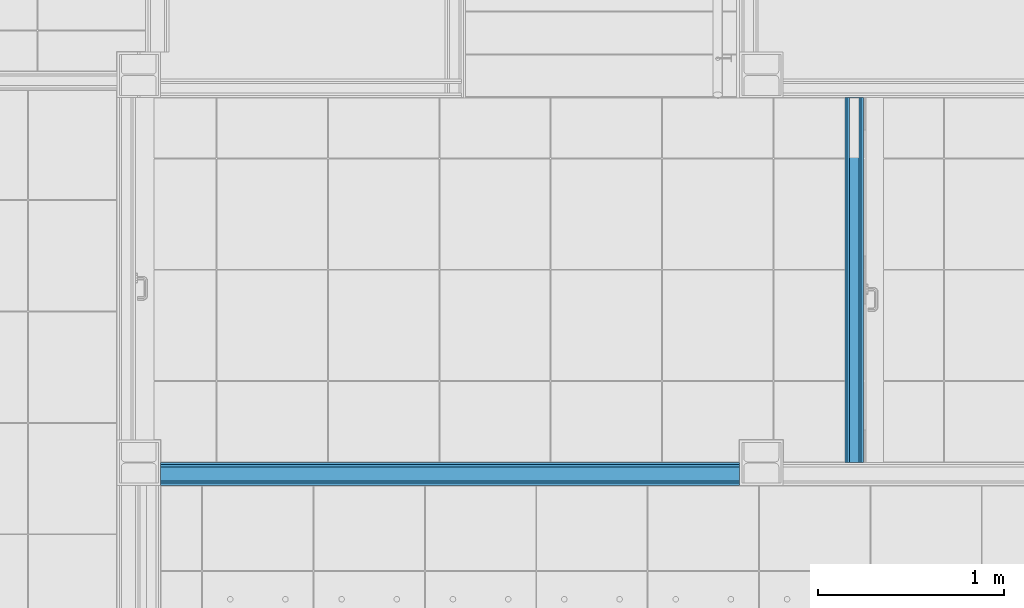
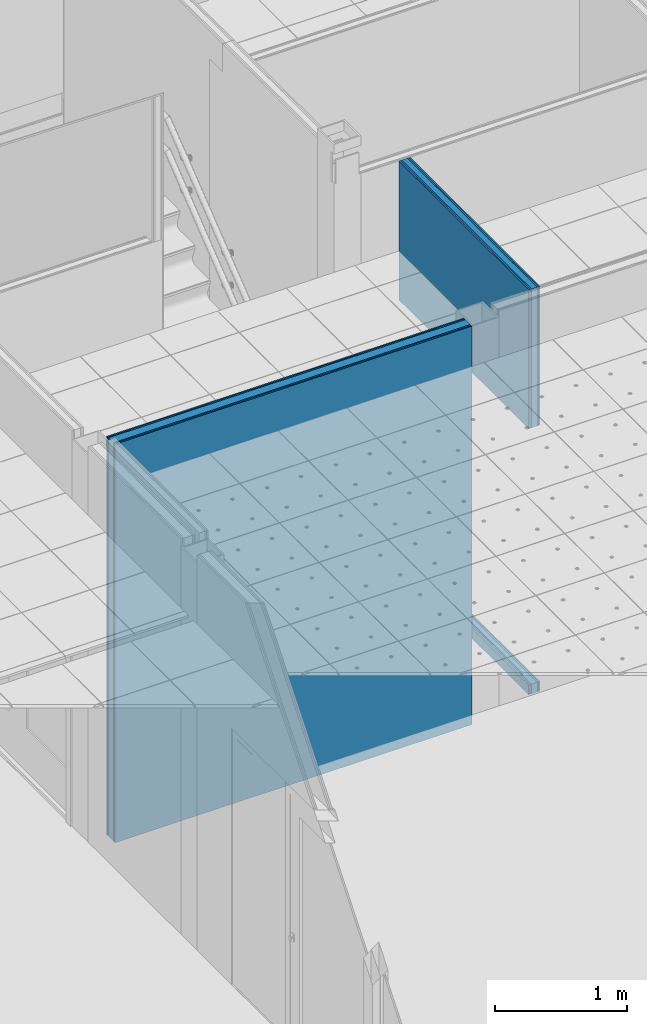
# One storey, part 79 of 338: 10 building element parts, 1 opening, 2 elements without a shape of their own.
"""IFC2X3 building model written with IfcOpenShell, lengths in millimetres."""

import ifcopenshell
import ifcopenshell.guid

model = None  # the IFC model being written
_history = None  # IfcOwnerHistory: only IFC2X3 demands one
_inside = {}  # id of a spatial element -> (the spatial element, [elements in it])
_under = {}  # id of a project, library or spatial element -> (it, [spatial elements below it])
_declared = {}  # id of a project -> (the project, [libraries it declares])
_typed = {}  # id of a type object -> (the type object, [elements of that type])
_made_of = {}  # id of a material, layer set ... -> (it, [elements and type objects made of it])


def new_model(schema):
    """Start an empty IFC model of exactly this schema.

    Asked for "IFC4X3", IfcOpenShell would pick the latest addendum, in which some entities
    have other attributes; the version numbers below select the first issue.
    IFC2X3 requires an IfcOwnerHistory on every rooted entity: one is made here for all.
    """
    global model, _history
    if schema == "IFC4X3":
        model = ifcopenshell.file(schema_version=(4, 3, 0, 0))
    else:
        model = ifcopenshell.file(schema=schema)
    _inside.clear()
    _under.clear()
    _declared.clear()
    _typed.clear()
    _made_of.clear()
    _history = None
    if model.schema == "IFC2X3":
        org = make("IfcOrganization", Name="unknown")
        user = make(
            "IfcPersonAndOrganization",
            ThePerson=make("IfcPerson", FamilyName="unknown"),
            TheOrganization=org,
        )
        app = make(
            "IfcApplication",
            ApplicationDeveloper=org,
            Version="unknown",
            ApplicationFullName="unknown",
            ApplicationIdentifier="unknown",
        )
        _history = make(
            "IfcOwnerHistory",
            OwningUser=user,
            OwningApplication=app,
            ChangeAction="ADDED",
            CreationDate=0,
        )
    return model


def make(cls, **values):
    """One entity of the class cls with the attributes given. An attribute that is None is left unset."""
    return model.create_entity(
        cls, **{name: value for name, value in values.items() if value is not None}
    )


def entity(cls, *values):
    """Any entity or typed value of the class cls, its attributes in the order of the schema. None: left unset."""
    e = model.create_entity(cls)
    for i, value in enumerate(values):
        if value is not None:
            e[i] = value
    return e


def rooted(cls, **values):
    """An entity with a GlobalId (a new one), such as an element, a storey or a relation."""
    return make(cls, GlobalId=ifcopenshell.guid.new(), OwnerHistory=_history, **values)


def si_unit(unit_type, name, prefix=None):
    """IfcSIUnit, for example si_unit("LENGTHUNIT", "METRE", prefix="MILLI")."""
    return make("IfcSIUnit", UnitType=unit_type, Prefix=prefix, Name=name)


def converted_unit(unit_type, name, factor, base, dimensions=None, offset=None):
    """IfcConversionBasedUnit, such as the inch: factor (a typed value) times the base unit."""
    return make(
        "IfcConversionBasedUnit"
        if offset is None
        else "IfcConversionBasedUnitWithOffset",
        ConversionOffset=offset,
        Dimensions=None
        if dimensions is None
        else entity("IfcDimensionalExponents", *dimensions),
        UnitType=unit_type,
        Name=name,
        ConversionFactor=make(
            "IfcMeasureWithUnit", ValueComponent=factor, UnitComponent=base
        ),
    )


def derived_unit(unit_type, elements):
    """IfcDerivedUnit: a product of units, each with its exponent."""
    return make(
        "IfcDerivedUnit",
        Elements=[
            make("IfcDerivedUnitElement", Unit=unit, Exponent=power)
            for unit, power in elements
        ],
        UnitType=unit_type,
    )


def money_unit(currency):
    """IfcMonetaryUnit."""
    return make("IfcMonetaryUnit", Currency=currency)


def assignment(units):
    """IfcUnitAssignment: the units of a project."""
    return None if units is None else make("IfcUnitAssignment", Units=units)


def point(xyz):
    """IfcCartesianPoint."""
    return None if xyz is None else make("IfcCartesianPoint", Coordinates=xyz)


def direction(xyz):
    """IfcDirection."""
    return None if xyz is None else make("IfcDirection", DirectionRatios=xyz)


def frame(location, z_axis=None, x_axis=None):
    """IfcAxis2Placement3D, a coordinate frame: its origin and axes. An axis left out is left unset."""
    return make(
        "IfcAxis2Placement3D",
        Location=point(location),
        Axis=direction(z_axis),
        RefDirection=direction(x_axis),
    )


def origin_with_axes():
    """The frame at (0, 0, 0) with the z axis (0, 0, 1) and the x axis (1, 0, 0) written out."""
    return frame((0.0, 0.0, 0.0), z_axis=(0.0, 0.0, 1.0), x_axis=(1.0, 0.0, 0.0))


def place(relative_to, where):
    """IfcLocalPlacement: puts the frame where relative to a parent placement (None: the world)."""
    return make(
        "IfcLocalPlacement", PlacementRelTo=relative_to, RelativePlacement=where
    )


def context(
    kind, dimensions, precision=None, world=None, true_north=None, identifier=None
):
    """IfcGeometricRepresentationContext, for example the 3D "Model" context."""
    return make(
        "IfcGeometricRepresentationContext",
        ContextIdentifier=identifier,
        ContextType=kind,
        CoordinateSpaceDimension=dimensions,
        Precision=precision,
        WorldCoordinateSystem=world,
        TrueNorth=true_north,
    )


def subcontext(parent, identifier, kind, view, scale=None):
    """IfcGeometricRepresentationSubContext, for example "Body" below "Model"."""
    return make(
        "IfcGeometricRepresentationSubContext",
        ContextIdentifier=identifier,
        ContextType=kind,
        ParentContext=parent,
        TargetScale=scale,
        TargetView=view,
    )


def project(units=None, contexts=None):
    """IfcProject with its units and contexts."""
    return rooted(
        "IfcProject",
        Name="project",
        RepresentationContexts=contexts,
        UnitsInContext=assignment(units),
    )


def spatial(cls, under=None, at=None, **own):
    """A site, building, storey or space (cls), placed at a placement, below another one or the project."""
    s = rooted(cls, ObjectPlacement=at, **own)
    if under is not None:
        _under.setdefault(under.id(), (under, []))[1].append(s)
    return s


def faces_of(points, faces, orient=None, outer=None):
    """IfcFace entities. A face is a list of loops; a loop is a list of indices into points, from 0.

    orient and outer hold one flag for each loop. By default every Orientation is true, the
    first loop of a face is its IfcFaceOuterBound and the others are IfcFaceBound.
    """
    made = []
    for i, loops in enumerate(faces):
        bounds = []
        for j, loop in enumerate(loops):
            is_outer = j == 0 if outer is None else outer[i][j]
            bounds.append(
                make(
                    "IfcFaceOuterBound" if is_outer else "IfcFaceBound",
                    Bound=make("IfcPolyLoop", Polygon=[points[k] for k in loop]),
                    Orientation=True if orient is None else orient[i][j],
                )
            )
        made.append(make("IfcFace", Bounds=bounds))
    return made


def faceted_brep(points, faces, orient=None, outer=None, voids=None):
    """IfcFacetedBrep: a solid bounded by flat faces; with voids (closed shells), ...WithVoids."""
    shared = [point(p) for p in points]
    hull = make("IfcClosedShell", CfsFaces=faces_of(shared, faces, orient, outer))
    if voids is None:
        return make("IfcFacetedBrep", Outer=hull)
    return make(
        "IfcFacetedBrepWithVoids",
        Outer=hull,
        Voids=[
            make(cls, CfsFaces=faces_of(shared, fs, o, b)) for cls, fs, o, b in voids
        ],
    )


def shape(context_of_items, identifier, shape_type, items):
    """IfcShapeRepresentation: the items that make up one representation, for example the "Body"."""
    return make(
        "IfcShapeRepresentation",
        ContextOfItems=context_of_items,
        RepresentationIdentifier=identifier,
        RepresentationType=shape_type,
        Items=items,
    )


def material(Name=None, Category=None):
    """IfcMaterial."""
    return make("IfcMaterial", Name=Name, Category=Category)


def made_of(thing, what):
    """Note that an element or type object is made of a material, layer set ...; save() writes the relation."""
    if what is not None:
        _made_of.setdefault(what.id(), (what, []))[1].append(thing)
    return thing


def type_object(cls, material=None, **own):
    """A type object (cls), such as IfcWallType, which elements share."""
    return made_of(rooted(cls, **own), material)


def element(
    cls,
    number,
    at=None,
    inside=None,
    cuts=None,
    type_object=None,
    material=None,
    context=None,
    identifier="Body",
    shape_type=None,
    held_by="IfcProductDefinitionShape",
    body=None,
    shapes=None,
    **own,
):
    """One element of the class cls, such as IfcWall. Its Tag is "e" and its number.

    at: its placement. inside: the storey or other place that contains it. cuts: it is an
    opening in that element (IfcRelVoidsElement). A single representation is given by context,
    identifier, shape_type and body (its items); several are given by shapes. held_by: the class
    of the entity that holds the representations. save() writes the other relations.
    """
    e = rooted(cls, Tag="e%d" % number, ObjectPlacement=at, **own)
    if body is not None:
        shapes = [shape(context, identifier, shape_type, body)]
    if shapes is not None:
        e.Representation = make(held_by, Representations=shapes)
    if inside is not None:
        _inside.setdefault(inside.id(), (inside, []))[1].append(e)
    if cuts is not None:
        rooted(
            "IfcRelVoidsElement", RelatingBuildingElement=cuts, RelatedOpeningElement=e
        )
    if type_object is not None:
        _typed.setdefault(type_object.id(), (type_object, []))[1].append(e)
    return made_of(e, material)


def aggregate(whole, parts):
    """IfcRelAggregates: a whole, such as a stair, and the parts it consists of."""
    return rooted("IfcRelAggregates", RelatingObject=whole, RelatedObjects=parts)


def save(model, path):
    """Write the relations noted so far, then the file.

    IfcRelAggregates (storeys below a building ...), IfcRelContainedInSpatialStructure (elements
    in a storey), IfcRelDefinesByType, IfcRelAssociatesMaterial and IfcRelDeclares: one each for
    every whole, place, type object, material and project.
    """
    for whole, parts in _under.values():
        aggregate(whole, parts)
    for where, things in _inside.values():
        rooted(
            "IfcRelContainedInSpatialStructure",
            RelatedElements=things,
            RelatingStructure=where,
        )
    for kind, things in _typed.values():
        rooted("IfcRelDefinesByType", RelatedObjects=things, RelatingType=kind)
    for what, things in _made_of.values():
        rooted("IfcRelAssociatesMaterial", RelatedObjects=things, RelatingMaterial=what)
    for by, libraries in _declared.values():
        rooted("IfcRelDeclares", RelatingContext=by, RelatedDefinitions=libraries)
    model.write(path)


model = new_model("IFC2X3")

# Units and contexts
model_context = context("Model", 3, precision=0.01, world=origin_with_axes(), true_north=direction((0.0, 1.0)))
plan_context = context("Plan", 3, precision=0.01, world=origin_with_axes(), true_north=direction((0.0, 1.0)))
body_context = subcontext(model_context, "Body", "Model", "MODEL_VIEW")
ifc_project = project(units=[si_unit("LENGTHUNIT", "METRE", prefix="MILLI"), si_unit("AREAUNIT", "SQUARE_METRE"), si_unit("VOLUMEUNIT", "CUBIC_METRE"), converted_unit("PLANEANGLEUNIT", "DEGREE", entity("IfcPlaneAngleMeasure", 0.0174532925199), si_unit("PLANEANGLEUNIT", "RADIAN"), dimensions=[0, 0, 0, 0, 0, 0, 0]), money_unit("EUR"), converted_unit("TIMEUNIT", "Year", entity("IfcTimeMeasure", 31556926.0), si_unit("TIMEUNIT", "SECOND"), dimensions=[0, 0, 1, 0, 0, 0, 0]), si_unit("MASSUNIT", "GRAM", prefix="KILO"), si_unit("THERMODYNAMICTEMPERATUREUNIT", "DEGREE_CELSIUS"), si_unit("LUMINOUSINTENSITYUNIT", "LUMEN"), si_unit("ENERGYUNIT", "JOULE", prefix="MEGA"), derived_unit("THERMALCONDUCTANCEUNIT", [(si_unit("POWERUNIT", "WATT"), 1), (si_unit("LENGTHUNIT", "METRE"), -1), (si_unit("THERMODYNAMICTEMPERATUREUNIT", "KELVIN"), -1)]), derived_unit("SPECIFICHEATCAPACITYUNIT", [(si_unit("ENERGYUNIT", "JOULE"), 1), (si_unit("MASSUNIT", "GRAM", prefix="KILO"), -1), (si_unit("THERMODYNAMICTEMPERATUREUNIT", "KELVIN"), -1)]), derived_unit("MASSDENSITYUNIT", [(si_unit("MASSUNIT", "GRAM", prefix="KILO"), 1), (si_unit("VOLUMEUNIT", "CUBIC_METRE"), -1)])], contexts=[model_context, plan_context])

# Site, building, storey
site_placement = place(None, origin_with_axes())
site = spatial("IfcSite", under=ifc_project, at=site_placement, Name="Fortuinstraat Woensdrecht", CompositionType="ELEMENT")
building_placement = place(site_placement, origin_with_axes())
building = spatial("IfcBuilding", under=site, at=building_placement, Name="IKC Fortuna", CompositionType="ELEMENT")
storey_placement = place(building_placement, origin_with_axes())
storey = spatial("IfcBuildingStorey", under=building, at=storey_placement, Name="00 begane grond", CompositionType="ELEMENT", Elevation=0.0)

# Wall, building element parts
wall_type_1 = type_object("IfcWallType", Name="MS125 2.75.2A 125", PredefinedType="NOTDEFINED")
wall_1_placement = place(storey_placement, frame((25732.9349765, 17709.7966283, -90.0), z_axis=(0.0, 0.0, 1.0), x_axis=(1.0, 0.0, 0.0)))
wall_1 = element("IfcWall", 1, at=wall_1_placement, inside=storey, type_object=wall_type_1, Name="22_Wand_Binnenwand")
ifc_material_1 = material(Name="Gipsplaat")
building_element_part_1_placement = place(wall_1_placement, origin_with_axes())
building_element_part_1 = element("IfcBuildingElementPart", 2, at=building_element_part_1_placement, material=ifc_material_1, Name="Gipsplaat", context=body_context, shape_type="Brep", body=[
    faceted_brep([(3119.0, 112.5, 3679.99995724), (3119.0, 125.0, 3679.99995724), (0.0, 125.0, 3679.99995724), (0.0, 112.5, 3679.99995724), (3119.0, 112.5, 0.0), (3119.0, 125.0, 0.0), (0.0, 125.0, 0.0), (0.0, 112.5, 0.0)], [[[0, 1, 2, 3]], [[0, 4, 5, 1]], [[1, 5, 6, 2]], [[3, 2, 6, 7]], [[4, 0, 3, 7]], [[5, 4, 7, 6]]]),
])
building_element_part_2_placement = place(wall_1_placement, origin_with_axes())
building_element_part_2 = element("IfcBuildingElementPart", 3, at=building_element_part_2_placement, material=ifc_material_1, Name="Gipsplaat", context=body_context, shape_type="Brep", body=[
    faceted_brep([(3119.0, 100.0, 3679.99995724), (3119.0, 112.5, 3679.99995724), (0.0, 112.5, 3679.99995724), (0.0, 100.0, 3679.99995724), (3119.0, 100.0, 0.0), (3119.0, 112.5, 0.0), (0.0, 112.5, 0.0), (0.0, 100.0, 0.0)], [[[0, 1, 2, 3]], [[0, 4, 5, 1]], [[1, 5, 6, 2]], [[3, 2, 6, 7]], [[4, 0, 3, 7]], [[5, 4, 7, 6]]]),
])
ifc_material_2 = material(Name="Isolatie - Steenwol LSW")
building_element_part_3_placement = place(wall_1_placement, origin_with_axes())
building_element_part_3 = element("IfcBuildingElementPart", 4, at=building_element_part_3_placement, material=ifc_material_2, Name="Isolatie - Steenwol LSW", context=body_context, shape_type="Brep", body=[
    faceted_brep([(3119.0, 25.0, 3679.99995724), (3119.0, 100.0, 3679.99995724), (0.0, 100.0, 3679.99995724), (0.0, 25.0, 3679.99995724), (3119.0, 25.0, 0.0), (3119.0, 100.0, 0.0), (0.0, 100.0, 0.0), (0.0, 25.0, 0.0)], [[[0, 1, 2, 3]], [[0, 4, 5, 1]], [[1, 5, 6, 2]], [[3, 2, 6, 7]], [[4, 0, 3, 7]], [[5, 4, 7, 6]]]),
])
building_element_part_4_placement = place(wall_1_placement, origin_with_axes())
building_element_part_4 = element("IfcBuildingElementPart", 5, at=building_element_part_4_placement, material=ifc_material_1, Name="Gipsplaat", context=body_context, shape_type="Brep", body=[
    faceted_brep([(3119.0, 12.5, 3679.99995724), (3119.0, 25.0, 3679.99995724), (0.0, 25.0, 3679.99995724), (0.0, 12.5, 3679.99995724), (3119.0, 12.5, 0.0), (3119.0, 25.0, 0.0), (0.0, 25.0, 0.0), (0.0, 12.5, 0.0)], [[[0, 1, 2, 3]], [[0, 4, 5, 1]], [[1, 5, 6, 2]], [[3, 2, 6, 7]], [[4, 0, 3, 7]], [[5, 4, 7, 6]]]),
])
building_element_part_5_placement = place(wall_1_placement, origin_with_axes())
building_element_part_5 = element("IfcBuildingElementPart", 6, at=building_element_part_5_placement, material=ifc_material_1, Name="Gipsplaat", context=body_context, shape_type="Brep", body=[
    faceted_brep([(3119.0, 0.0, 3679.99995724), (3119.0, 12.5, 3679.99995724), (0.0, 12.5, 3679.99995724), (0.0, 0.0, 3679.99995724), (3119.0, 0.0, 0.0), (3119.0, 12.5, 0.0), (0.0, 12.5, 0.0), (0.0, 0.0, 0.0)], [[[0, 1, 2, 3]], [[0, 4, 5, 1]], [[1, 5, 6, 2]], [[3, 2, 6, 7]], [[4, 0, 3, 7]], [[5, 4, 7, 6]]]),
])
aggregate(wall_1, [building_element_part_1, building_element_part_2, building_element_part_3, building_element_part_4, building_element_part_5])

# Wall, opening, building element parts
wall_type_2 = type_object("IfcWallType", Name="MS100 2.50.2A 100", PredefinedType="NOTDEFINED")
wall_2_placement = place(storey_placement, frame((29419.4349765, 19799.7966283, -90.0), z_axis=(0.0, 0.0, 1.0), x_axis=(0.0, -1.0, 0.0)))
wall_2 = element("IfcWall", 7, at=wall_2_placement, inside=storey, type_object=wall_type_2, Name="22_Wand_Binnenwand")
opening_placement = place(wall_2_placement, frame((982.5, 0.0, 90.0), z_axis=(0.0, 0.0, 1.0), x_axis=(1.0, 0.0, 0.0)))
element("IfcOpeningElement", 8, at=opening_placement, cuts=wall_2, Name="32_Deur_h.08", context=body_context, shape_type="Brep", body=[
    faceted_brep([(988.5, 100.0, 0.0), (988.5, 100.0, 2367.0), (988.5, -200.0, 2367.0), (988.5, -200.0, 0.0), (-988.5, 100.0, 0.0), (-988.5, 100.0, 2367.0), (-988.5, -200.0, 2367.0), (-988.5, -200.0, 0.0)], [[[0, 1, 2, 3]], [[0, 4, 5, 1]], [[1, 5, 6, 2]], [[3, 2, 6, 7]], [[4, 0, 3, 7]], [[5, 4, 7, 6]]]),
])
building_element_part_6_placement = place(wall_2_placement, origin_with_axes())
building_element_part_6 = element("IfcBuildingElementPart", 9, at=building_element_part_6_placement, material=ifc_material_1, Name="Gipsplaat", context=body_context, shape_type="Brep", body=[
    faceted_brep([(0.0, 87.5, 90.0), (0.0, 100.0, 90.0), (0.0, 100.0, 0.0), (0.0, 87.5, 0.0), (1964.99999879, 100.0, 90.0), (1964.99999882, 87.5, 90.0), (1964.99999879, 100.0, 0.0), (1964.99999882, 87.5, 0.0)], [[[0, 1, 2, 3]], [[4, 1, 0, 5]], [[1, 4, 6, 2]], [[3, 2, 6, 7]], [[5, 0, 3, 7]], [[4, 5, 7, 6]]]),
    faceted_brep([(1964.99999879, 100.0, 2457.0), (0.0, 100.0, 2457.0), (0.0, 100.0, 3740.0), (1964.99999879, 100.0, 3740.0), (0.0, 87.5, 2457.0), (1964.99999882, 87.5, 2457.0), (0.0, 87.5, 3740.0), (1964.99999882, 87.5, 3740.0)], [[[0, 1, 2, 3]], [[4, 1, 0, 5]], [[1, 4, 6, 2]], [[2, 6, 7, 3]], [[5, 0, 3, 7]], [[4, 5, 7, 6]]]),
])
building_element_part_7_placement = place(wall_2_placement, origin_with_axes())
building_element_part_7 = element("IfcBuildingElementPart", 10, at=building_element_part_7_placement, material=ifc_material_1, Name="Gipsplaat", context=body_context, shape_type="Brep", body=[
    faceted_brep([(0.0, 75.0, 90.0), (0.0, 87.5, 90.0), (0.0, 87.5, 0.0), (0.0, 75.0, 0.0), (1964.99999882, 87.5, 90.0), (1964.99999886, 75.0, 90.0), (1964.99999882, 87.5, 0.0), (1964.99999886, 75.0, 0.0)], [[[0, 1, 2, 3]], [[4, 1, 0, 5]], [[1, 4, 6, 2]], [[3, 2, 6, 7]], [[5, 0, 3, 7]], [[4, 5, 7, 6]]]),
    faceted_brep([(1964.99999882, 87.5, 2457.0), (0.0, 87.5, 2457.0), (0.0, 87.5, 3740.0), (1964.99999882, 87.5, 3740.0), (0.0, 75.0, 2457.0), (1964.99999886, 75.0, 2457.0), (0.0, 75.0, 3740.0), (1964.99999886, 75.0, 3740.0)], [[[0, 1, 2, 3]], [[4, 1, 0, 5]], [[1, 4, 6, 2]], [[2, 6, 7, 3]], [[5, 0, 3, 7]], [[4, 5, 7, 6]]]),
])
building_element_part_8_placement = place(wall_2_placement, origin_with_axes())
building_element_part_8 = element("IfcBuildingElementPart", 11, at=building_element_part_8_placement, material=ifc_material_2, Name="Isolatie - Steenwol LSW", context=body_context, shape_type="Brep", body=[
    faceted_brep([(0.0, 25.0, 90.0), (0.0, 75.0, 90.0), (0.0, 75.0, 0.0), (0.0, 25.0, 0.0), (1964.99999886, 75.0, 90.0), (1964.999999, 25.0, 90.0), (1964.99999886, 75.0, 0.0), (1964.999999, 25.0, 0.0)], [[[0, 1, 2, 3]], [[4, 1, 0, 5]], [[1, 4, 6, 2]], [[3, 2, 6, 7]], [[5, 0, 3, 7]], [[4, 5, 7, 6]]]),
    faceted_brep([(1964.99999886, 75.0, 2457.0), (0.0, 75.0, 2457.0), (0.0, 75.0, 3740.0), (1964.99999886, 75.0, 3740.0), (0.0, 25.0, 2457.0), (1964.999999, 25.0, 2457.0), (0.0, 25.0, 3740.0), (1964.999999, 25.0, 3740.0)], [[[0, 1, 2, 3]], [[4, 1, 0, 5]], [[1, 4, 6, 2]], [[2, 6, 7, 3]], [[5, 0, 3, 7]], [[4, 5, 7, 6]]]),
])
building_element_part_9_placement = place(wall_2_placement, origin_with_axes())
building_element_part_9 = element("IfcBuildingElementPart", 12, at=building_element_part_9_placement, material=ifc_material_1, Name="Gipsplaat", context=body_context, shape_type="Brep", body=[
    faceted_brep([(0.0, 12.5, 90.0), (0.0, 25.0, 90.0), (0.0, 25.0, 0.0), (0.0, 12.5, 0.0), (1964.999999, 25.0, 90.0), (1964.99999903, 12.5, 90.0), (1964.999999, 25.0, 0.0), (1964.99999903, 12.5, 0.0)], [[[0, 1, 2, 3]], [[4, 1, 0, 5]], [[1, 4, 6, 2]], [[3, 2, 6, 7]], [[5, 0, 3, 7]], [[4, 5, 7, 6]]]),
    faceted_brep([(1964.999999, 25.0, 2457.0), (0.0, 25.0, 2457.0), (0.0, 25.0, 3740.0), (1964.999999, 25.0, 3740.0), (0.0, 12.5, 2457.0), (1964.99999903, 12.5, 2457.0), (0.0, 12.5, 3740.0), (1964.99999903, 12.5, 3740.0)], [[[0, 1, 2, 3]], [[4, 1, 0, 5]], [[1, 4, 6, 2]], [[2, 6, 7, 3]], [[5, 0, 3, 7]], [[4, 5, 7, 6]]]),
])
building_element_part_10_placement = place(wall_2_placement, origin_with_axes())
building_element_part_10 = element("IfcBuildingElementPart", 13, at=building_element_part_10_placement, material=ifc_material_1, Name="Gipsplaat", context=body_context, shape_type="Brep", body=[
    faceted_brep([(0.0, 0.0, 90.0), (0.0, 12.5, 90.0), (0.0, 12.5, 0.0), (0.0, 0.0, 0.0), (1964.99999903, 12.5, 90.0), (1964.99999907, 0.0, 90.0), (1964.99999903, 12.5, 0.0), (1964.99999907, 0.0, 0.0)], [[[0, 1, 2, 3]], [[4, 1, 0, 5]], [[1, 4, 6, 2]], [[3, 2, 6, 7]], [[5, 0, 3, 7]], [[4, 5, 7, 6]]]),
    faceted_brep([(1964.99999903, 12.5, 2457.0), (0.0, 12.5, 2457.0), (0.0, 12.5, 3740.0), (1964.99999903, 12.5, 3740.0), (0.0, 0.0, 2457.0), (1964.99999907, 0.0, 2457.0), (0.0, 0.0, 3740.0), (1964.99999907, 0.0, 3740.0)], [[[0, 1, 2, 3]], [[4, 1, 0, 5]], [[1, 4, 6, 2]], [[2, 6, 7, 3]], [[5, 0, 3, 7]], [[4, 5, 7, 6]]]),
])
aggregate(wall_2, [building_element_part_6, building_element_part_7, building_element_part_8, building_element_part_9, building_element_part_10])

save(model, "model.ifc")
